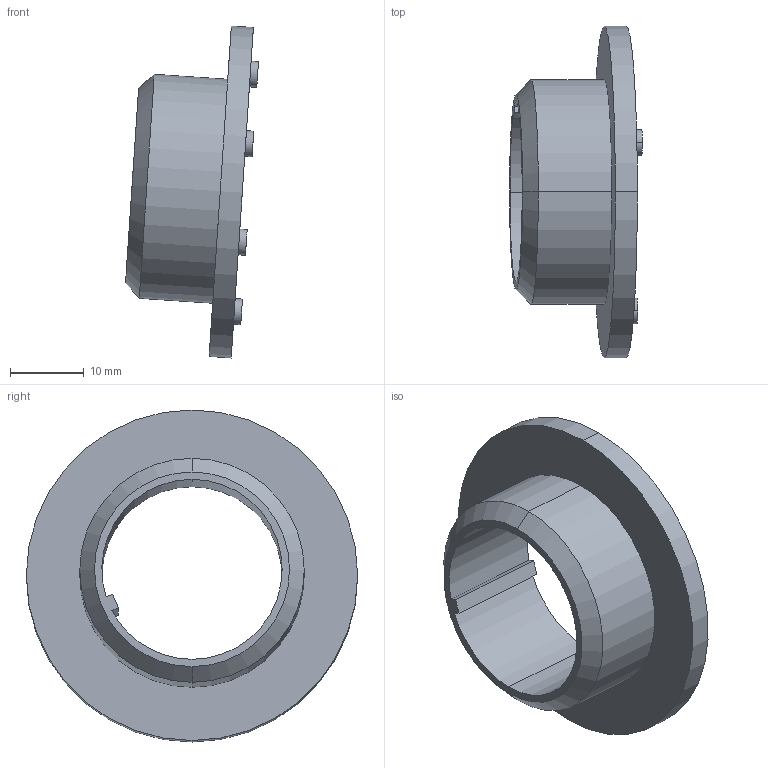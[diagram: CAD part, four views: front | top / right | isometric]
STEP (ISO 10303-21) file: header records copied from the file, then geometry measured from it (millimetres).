
FILE_DESCRIPTION (( 'STEP AP203' ), '1' );
FILE_NAME ('Palier d''embrayage_2_Défaut_sldprt.STEP', '2018-04-06T14:28:49', ( '' ), ( '' ), 'SwSTEP 2.0', 'SolidWorks 2013', '' );
FILE_SCHEMA (( 'CONFIG_CONTROL_DESIGN' ));
Length unit declared in the file: millimetre
Products named in the file (1): Palier d''embrayage_2_Défaut_sldprt
Bounding box: 18.06 x 45 x 45.1 mm (x, y, z)
Volume: 6352 mm3; surface area: 4925.7 mm2
Topology: 1 solids, 1 shells, 27 faces, 58 edges, 38 vertices
Faces by surface type: cylinder 15, plane 10, cone 2
Entity records: 829 total; most frequent: DIRECTION 146, CARTESIAN_POINT 124, ORIENTED_EDGE 116, AXIS2_PLACEMENT_3D 60, EDGE_CURVE 58, VERTEX_POINT 38, EDGE_LOOP 34, CIRCLE 32
